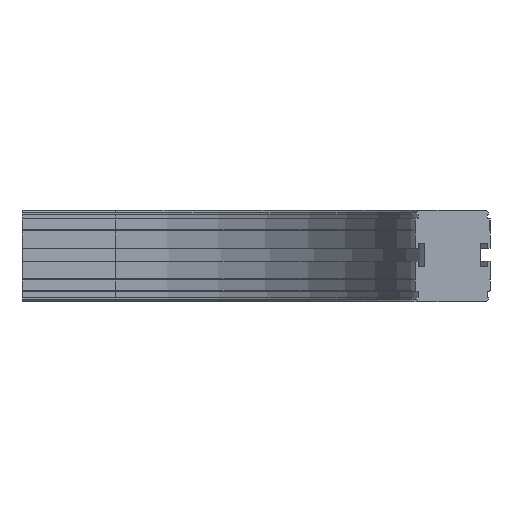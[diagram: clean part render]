
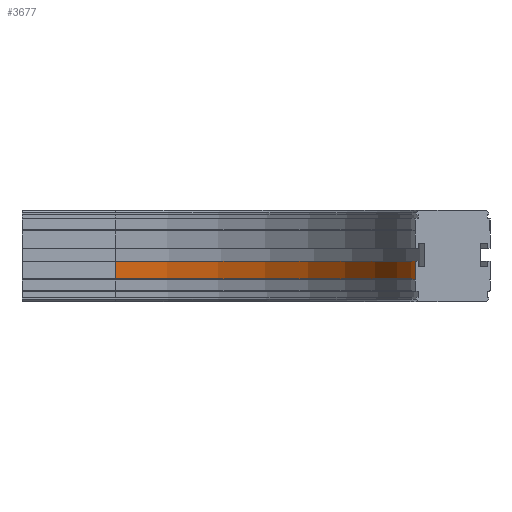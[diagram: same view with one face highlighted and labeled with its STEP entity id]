
A CAD part, front view. The second image highlights one B-rep face of the part: STEP entity #3677.
In plain terms, the highlighted cylindrical face has radius 257 mm (diameter 514 mm), a partial arc.
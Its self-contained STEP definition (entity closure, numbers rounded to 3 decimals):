
#2334=CARTESIAN_POINT('',(337.,-289.,-58.5));
#2335=VERTEX_POINT('',#2334);
#2365=CARTESIAN_POINT('',(337.,-289.,-43.5));
#2366=VERTEX_POINT('',#2365);
#2373=CARTESIAN_POINT('',(337.,-289.,-58.5));
#2374=DIRECTION('',(0.0,0.0,1.0));
#2375=VECTOR('',#2374,15.);
#2376=LINE('',#2373,#2375);
#2377=EDGE_CURVE('',#2335,#2366,#2376,.T.);
#3634=CARTESIAN_POINT('',(80.0,-32.0,-58.5));
#3635=VERTEX_POINT('',#3634);
#3636=CARTESIAN_POINT('',(80.,-289.,-58.5));
#3637=DIRECTION('',(0.0,0.0,-1.0));
#3638=DIRECTION('',(-1.0,0.0,0.0));
#3639=AXIS2_PLACEMENT_3D('',#3636,#3637,#3638);
#3640=CIRCLE('',#3639,257.);
#3641=EDGE_CURVE('',#3635,#2335,#3640,.T.);
#3653=CARTESIAN_POINT('',(80.,-289.,-51.));
#3654=DIRECTION('',(0.0,0.0,-1.0));
#3655=DIRECTION('',(-1.0,0.0,0.0));
#3656=AXIS2_PLACEMENT_3D('',#3653,#3654,#3655);
#3657=CYLINDRICAL_SURFACE('',#3656,257.);
#3658=ORIENTED_EDGE('',*,*,#2377,.T.);
#3659=CARTESIAN_POINT('',(80.0,-32.0,-43.5));
#3660=VERTEX_POINT('',#3659);
#3661=CARTESIAN_POINT('',(80.,-289.,-43.5));
#3662=DIRECTION('',(0.0,0.0,-1.0));
#3663=DIRECTION('',(-1.0,0.0,0.0));
#3664=AXIS2_PLACEMENT_3D('',#3661,#3662,#3663);
#3665=CIRCLE('',#3664,257.);
#3666=EDGE_CURVE('',#3660,#2366,#3665,.T.);
#3667=ORIENTED_EDGE('',*,*,#3666,.F.);
#3668=CARTESIAN_POINT('',(80.0,-32.0,-58.5));
#3669=DIRECTION('',(0.0,0.0,1.0));
#3670=VECTOR('',#3669,15.);
#3671=LINE('',#3668,#3670);
#3672=EDGE_CURVE('',#3635,#3660,#3671,.T.);
#3673=ORIENTED_EDGE('',*,*,#3672,.F.);
#3674=ORIENTED_EDGE('',*,*,#3641,.T.);
#3675=EDGE_LOOP('',(#3658,#3667,#3673,#3674));
#3676=FACE_OUTER_BOUND('',#3675,.T.);
#3677=ADVANCED_FACE('',(#3676),#3657,.F.);
